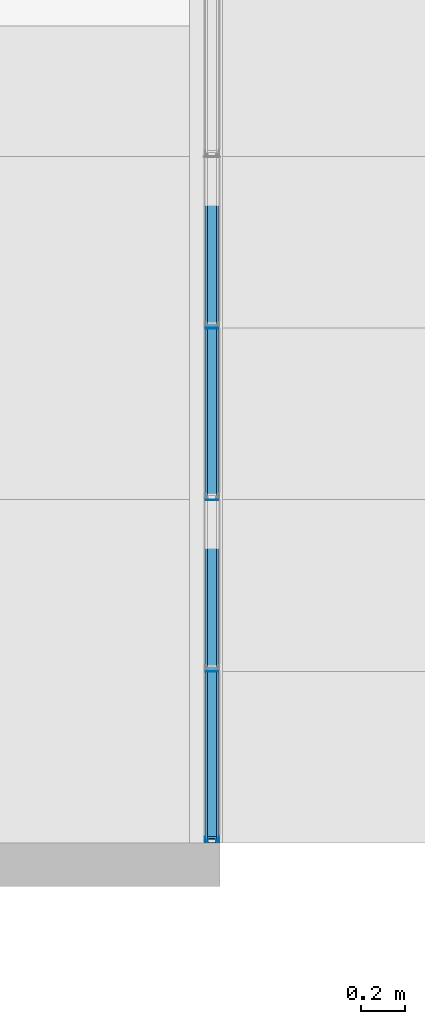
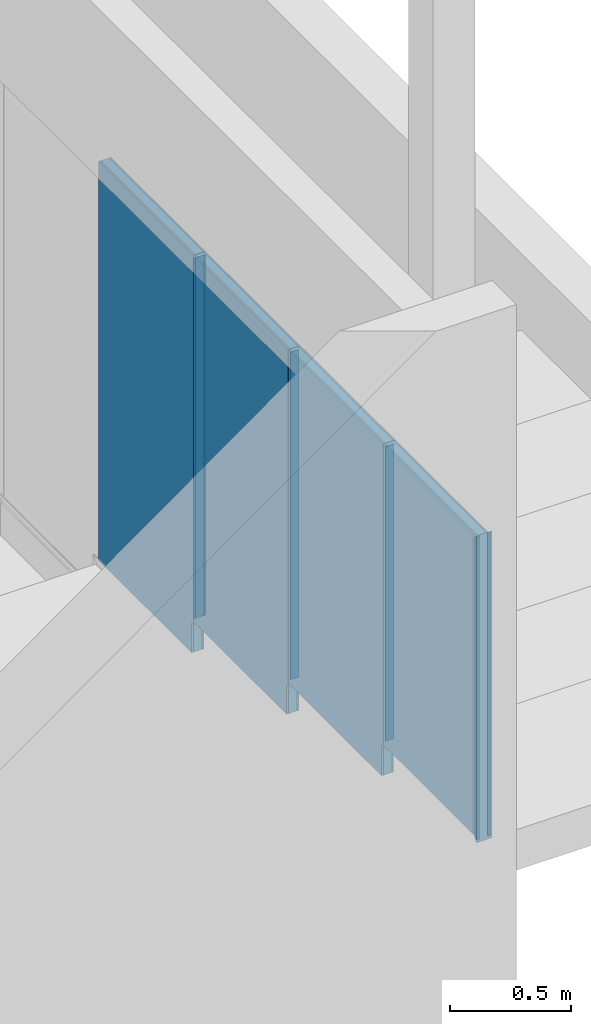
# One storey, part 29 of 65: 16 building element parts, 9 elements without a shape of their own.
"""IFC2X3 building model written with IfcOpenShell, lengths in millimetres."""

import ifcopenshell
import ifcopenshell.guid

model = None  # the IFC model being written
_history = None  # IfcOwnerHistory: only IFC2X3 demands one
_inside = {}  # id of a spatial element -> (the spatial element, [elements in it])
_under = {}  # id of a project, library or spatial element -> (it, [spatial elements below it])
_declared = {}  # id of a project -> (the project, [libraries it declares])
_typed = {}  # id of a type object -> (the type object, [elements of that type])
_made_of = {}  # id of a material, layer set ... -> (it, [elements and type objects made of it])


def new_model(schema):
    """Start an empty IFC model of exactly this schema.

    Asked for "IFC4X3", IfcOpenShell would pick the latest addendum, in which some entities
    have other attributes; the version numbers below select the first issue.
    IFC2X3 requires an IfcOwnerHistory on every rooted entity: one is made here for all.
    """
    global model, _history
    if schema == "IFC4X3":
        model = ifcopenshell.file(schema_version=(4, 3, 0, 0))
    else:
        model = ifcopenshell.file(schema=schema)
    _inside.clear()
    _under.clear()
    _declared.clear()
    _typed.clear()
    _made_of.clear()
    _history = None
    if model.schema == "IFC2X3":
        org = make("IfcOrganization", Name="unknown")
        user = make(
            "IfcPersonAndOrganization",
            ThePerson=make("IfcPerson", FamilyName="unknown"),
            TheOrganization=org,
        )
        app = make(
            "IfcApplication",
            ApplicationDeveloper=org,
            Version="unknown",
            ApplicationFullName="unknown",
            ApplicationIdentifier="unknown",
        )
        _history = make(
            "IfcOwnerHistory",
            OwningUser=user,
            OwningApplication=app,
            ChangeAction="ADDED",
            CreationDate=0,
        )
    return model


def make(cls, **values):
    """One entity of the class cls with the attributes given. An attribute that is None is left unset."""
    return model.create_entity(
        cls, **{name: value for name, value in values.items() if value is not None}
    )


def entity(cls, *values):
    """Any entity or typed value of the class cls, its attributes in the order of the schema. None: left unset."""
    e = model.create_entity(cls)
    for i, value in enumerate(values):
        if value is not None:
            e[i] = value
    return e


def rooted(cls, **values):
    """An entity with a GlobalId (a new one), such as an element, a storey or a relation."""
    return make(cls, GlobalId=ifcopenshell.guid.new(), OwnerHistory=_history, **values)


def si_unit(unit_type, name, prefix=None):
    """IfcSIUnit, for example si_unit("LENGTHUNIT", "METRE", prefix="MILLI")."""
    return make("IfcSIUnit", UnitType=unit_type, Prefix=prefix, Name=name)


def converted_unit(unit_type, name, factor, base, dimensions=None, offset=None):
    """IfcConversionBasedUnit, such as the inch: factor (a typed value) times the base unit."""
    return make(
        "IfcConversionBasedUnit"
        if offset is None
        else "IfcConversionBasedUnitWithOffset",
        ConversionOffset=offset,
        Dimensions=None
        if dimensions is None
        else entity("IfcDimensionalExponents", *dimensions),
        UnitType=unit_type,
        Name=name,
        ConversionFactor=make(
            "IfcMeasureWithUnit", ValueComponent=factor, UnitComponent=base
        ),
    )


def derived_unit(unit_type, elements):
    """IfcDerivedUnit: a product of units, each with its exponent."""
    return make(
        "IfcDerivedUnit",
        Elements=[
            make("IfcDerivedUnitElement", Unit=unit, Exponent=power)
            for unit, power in elements
        ],
        UnitType=unit_type,
    )


def money_unit(currency):
    """IfcMonetaryUnit."""
    return make("IfcMonetaryUnit", Currency=currency)


def assignment(units):
    """IfcUnitAssignment: the units of a project."""
    return None if units is None else make("IfcUnitAssignment", Units=units)


def point(xyz):
    """IfcCartesianPoint."""
    return None if xyz is None else make("IfcCartesianPoint", Coordinates=xyz)


def direction(xyz):
    """IfcDirection."""
    return None if xyz is None else make("IfcDirection", DirectionRatios=xyz)


def frame(location, z_axis=None, x_axis=None):
    """IfcAxis2Placement3D, a coordinate frame: its origin and axes. An axis left out is left unset."""
    return make(
        "IfcAxis2Placement3D",
        Location=point(location),
        Axis=direction(z_axis),
        RefDirection=direction(x_axis),
    )


def origin_with_axes():
    """The frame at (0, 0, 0) with the z axis (0, 0, 1) and the x axis (1, 0, 0) written out."""
    return frame((0.0, 0.0, 0.0), z_axis=(0.0, 0.0, 1.0), x_axis=(1.0, 0.0, 0.0))


def place(relative_to, where):
    """IfcLocalPlacement: puts the frame where relative to a parent placement (None: the world)."""
    return make(
        "IfcLocalPlacement", PlacementRelTo=relative_to, RelativePlacement=where
    )


def context(
    kind, dimensions, precision=None, world=None, true_north=None, identifier=None
):
    """IfcGeometricRepresentationContext, for example the 3D "Model" context."""
    return make(
        "IfcGeometricRepresentationContext",
        ContextIdentifier=identifier,
        ContextType=kind,
        CoordinateSpaceDimension=dimensions,
        Precision=precision,
        WorldCoordinateSystem=world,
        TrueNorth=true_north,
    )


def subcontext(parent, identifier, kind, view, scale=None):
    """IfcGeometricRepresentationSubContext, for example "Body" below "Model"."""
    return make(
        "IfcGeometricRepresentationSubContext",
        ContextIdentifier=identifier,
        ContextType=kind,
        ParentContext=parent,
        TargetScale=scale,
        TargetView=view,
    )


def project(units=None, contexts=None):
    """IfcProject with its units and contexts."""
    return rooted(
        "IfcProject",
        Name="project",
        RepresentationContexts=contexts,
        UnitsInContext=assignment(units),
    )


def spatial(cls, under=None, at=None, **own):
    """A site, building, storey or space (cls), placed at a placement, below another one or the project."""
    s = rooted(cls, ObjectPlacement=at, **own)
    if under is not None:
        _under.setdefault(under.id(), (under, []))[1].append(s)
    return s


def faces_of(points, faces, orient=None, outer=None):
    """IfcFace entities. A face is a list of loops; a loop is a list of indices into points, from 0.

    orient and outer hold one flag for each loop. By default every Orientation is true, the
    first loop of a face is its IfcFaceOuterBound and the others are IfcFaceBound.
    """
    made = []
    for i, loops in enumerate(faces):
        bounds = []
        for j, loop in enumerate(loops):
            is_outer = j == 0 if outer is None else outer[i][j]
            bounds.append(
                make(
                    "IfcFaceOuterBound" if is_outer else "IfcFaceBound",
                    Bound=make("IfcPolyLoop", Polygon=[points[k] for k in loop]),
                    Orientation=True if orient is None else orient[i][j],
                )
            )
        made.append(make("IfcFace", Bounds=bounds))
    return made


def faceted_brep(points, faces, orient=None, outer=None, voids=None):
    """IfcFacetedBrep: a solid bounded by flat faces; with voids (closed shells), ...WithVoids."""
    shared = [point(p) for p in points]
    hull = make("IfcClosedShell", CfsFaces=faces_of(shared, faces, orient, outer))
    if voids is None:
        return make("IfcFacetedBrep", Outer=hull)
    return make(
        "IfcFacetedBrepWithVoids",
        Outer=hull,
        Voids=[
            make(cls, CfsFaces=faces_of(shared, fs, o, b)) for cls, fs, o, b in voids
        ],
    )


def shape(context_of_items, identifier, shape_type, items):
    """IfcShapeRepresentation: the items that make up one representation, for example the "Body"."""
    return make(
        "IfcShapeRepresentation",
        ContextOfItems=context_of_items,
        RepresentationIdentifier=identifier,
        RepresentationType=shape_type,
        Items=items,
    )


def material(Name=None, Category=None):
    """IfcMaterial."""
    return make("IfcMaterial", Name=Name, Category=Category)


def made_of(thing, what):
    """Note that an element or type object is made of a material, layer set ...; save() writes the relation."""
    if what is not None:
        _made_of.setdefault(what.id(), (what, []))[1].append(thing)
    return thing


def type_object(cls, material=None, **own):
    """A type object (cls), such as IfcWallType, which elements share."""
    return made_of(rooted(cls, **own), material)


def element(
    cls,
    number,
    at=None,
    inside=None,
    cuts=None,
    type_object=None,
    material=None,
    context=None,
    identifier="Body",
    shape_type=None,
    held_by="IfcProductDefinitionShape",
    body=None,
    shapes=None,
    **own,
):
    """One element of the class cls, such as IfcWall. Its Tag is "e" and its number.

    at: its placement. inside: the storey or other place that contains it. cuts: it is an
    opening in that element (IfcRelVoidsElement). A single representation is given by context,
    identifier, shape_type and body (its items); several are given by shapes. held_by: the class
    of the entity that holds the representations. save() writes the other relations.
    """
    e = rooted(cls, Tag="e%d" % number, ObjectPlacement=at, **own)
    if body is not None:
        shapes = [shape(context, identifier, shape_type, body)]
    if shapes is not None:
        e.Representation = make(held_by, Representations=shapes)
    if inside is not None:
        _inside.setdefault(inside.id(), (inside, []))[1].append(e)
    if cuts is not None:
        rooted(
            "IfcRelVoidsElement", RelatingBuildingElement=cuts, RelatedOpeningElement=e
        )
    if type_object is not None:
        _typed.setdefault(type_object.id(), (type_object, []))[1].append(e)
    return made_of(e, material)


def aggregate(whole, parts):
    """IfcRelAggregates: a whole, such as a stair, and the parts it consists of."""
    return rooted("IfcRelAggregates", RelatingObject=whole, RelatedObjects=parts)


def save(model, path):
    """Write the relations noted so far, then the file.

    IfcRelAggregates (storeys below a building ...), IfcRelContainedInSpatialStructure (elements
    in a storey), IfcRelDefinesByType, IfcRelAssociatesMaterial and IfcRelDeclares: one each for
    every whole, place, type object, material and project.
    """
    for whole, parts in _under.values():
        aggregate(whole, parts)
    for where, things in _inside.values():
        rooted(
            "IfcRelContainedInSpatialStructure",
            RelatedElements=things,
            RelatingStructure=where,
        )
    for kind, things in _typed.values():
        rooted("IfcRelDefinesByType", RelatedObjects=things, RelatingType=kind)
    for what, things in _made_of.values():
        rooted("IfcRelAssociatesMaterial", RelatedObjects=things, RelatingMaterial=what)
    for by, libraries in _declared.values():
        rooted("IfcRelDeclares", RelatingContext=by, RelatedDefinitions=libraries)
    model.write(path)


model = new_model("IFC2X3")

# Units and contexts
model_context = context("Model", 3, precision=0.01, world=origin_with_axes(), true_north=direction((0.0, 1.0)))
body_context = subcontext(model_context, "Body", "Model", "MODEL_VIEW")
ifc_project = project(units=[si_unit("LENGTHUNIT", "METRE", prefix="MILLI"), si_unit("AREAUNIT", "SQUARE_METRE"), si_unit("VOLUMEUNIT", "CUBIC_METRE"), converted_unit("PLANEANGLEUNIT", "DEGREE", entity("IfcPlaneAngleMeasure", 0.0174532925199), si_unit("PLANEANGLEUNIT", "RADIAN"), dimensions=[0, 0, 0, 0, 0, 0, 0]), si_unit("SOLIDANGLEUNIT", "STERADIAN"), money_unit("EUR"), converted_unit("TIMEUNIT", "Year", entity("IfcTimeMeasure", 31556926.0), si_unit("TIMEUNIT", "SECOND"), dimensions=[0, 0, 1, 0, 0, 0, 0]), si_unit("MASSUNIT", "GRAM", prefix="KILO"), si_unit("THERMODYNAMICTEMPERATUREUNIT", "DEGREE_CELSIUS"), si_unit("LUMINOUSINTENSITYUNIT", "LUMEN"), si_unit("ENERGYUNIT", "JOULE", prefix="MEGA"), derived_unit("THERMALCONDUCTANCEUNIT", [(si_unit("POWERUNIT", "WATT"), 1), (si_unit("LENGTHUNIT", "METRE"), -1), (si_unit("THERMODYNAMICTEMPERATUREUNIT", "KELVIN"), -1)]), derived_unit("SPECIFICHEATCAPACITYUNIT", [(si_unit("ENERGYUNIT", "JOULE"), 1), (si_unit("MASSUNIT", "GRAM", prefix="KILO"), -1), (si_unit("THERMODYNAMICTEMPERATUREUNIT", "KELVIN"), -1)]), derived_unit("MASSDENSITYUNIT", [(si_unit("MASSUNIT", "GRAM", prefix="KILO"), 1), (si_unit("VOLUMEUNIT", "CUBIC_METRE"), -1)])], contexts=[model_context])

# Site, building, storey
site_placement = place(None, origin_with_axes())
site = spatial("IfcSite", under=ifc_project, at=site_placement, Name="Puškini 31, Narva", CompositionType="ELEMENT")
building_placement = place(site_placement, origin_with_axes())
building = spatial("IfcBuilding", under=site, at=building_placement, Name="Narva Riigigümnaasium", CompositionType="ELEMENT")
storey_placement = place(building_placement, frame((0.0, 0.0, -1320.0), z_axis=(0.0, 0.0, 1.0), x_axis=(1.0, 0.0, 0.0)))
storey = spatial("IfcBuildingStorey", under=building, at=storey_placement, Name="1.korrus -1.32", CompositionType="ELEMENT", Elevation=-1320.0)

# Curtain wall, plates, building element parts, members
curtain_wall_type = type_object("IfcCurtainWallType", Name="Curtain Wall Type", PredefinedType="NOTDEFINED")
curtain_wall_placement = place(storey_placement, frame((30362.9999948, 159591.499992, 330.0), z_axis=(0.0, 0.0, 1.0), x_axis=(1.0, 0.0, 0.0)))
curtain_wall = element("IfcCurtainWall", 1, at=curtain_wall_placement, inside=storey, type_object=curtain_wall_type, Name="G-SKLF-03")
plate_type_1 = type_object("IfcPlateType", Name="Siseklaasfassaad - Klaas 780 x 1695 x 10", PredefinedType="CURTAIN_PANEL")
plate_1_placement = place(curtain_wall_placement, frame((0.0, 1487.7, 1277.99997395), z_axis=(0.0, 0.0, 1.0), x_axis=(0.0, -1.0, 0.0)))
plate_1 = element("IfcPlate", 2, at=plate_1_placement, type_object=plate_type_1, Name="G-SKLF-03-klaas", ObjectType="CURTAIN_PANEL")
ifc_material_1 = material(Name="VKR-05_Klaas")
building_element_part_1_placement = place(plate_1_placement, origin_with_axes())
building_element_part_1 = element("IfcBuildingElementPart", 3, at=building_element_part_1_placement, material=ifc_material_1, Name="VKR-05_Klaas", context=body_context, shape_type="Brep", body=[
    faceted_brep([(-468.299997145, -29.0, 1076.99992752), (311.700001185, -29.0, 1076.99992752), (311.700001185, -20.0, 1076.99992752), (-468.299997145, -20.0, 1076.99992752), (-468.299997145, -29.0, -767.999955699), (298.199983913, -29.0, -767.999927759), (298.199983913, -29.0, -617.999962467), (311.700001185, -29.0, -617.999962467), (311.700001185, -20.0, -617.999962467), (298.199983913, -20.0, -617.999962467), (298.199983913, -20.0, -767.999927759), (-468.299997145, -20.0, -767.999955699)], [[[0, 1, 2, 3]], [[0, 4, 5, 6, 7, 1]], [[1, 7, 8, 2]], [[3, 2, 8, 9, 10, 11]], [[4, 0, 3, 11]], [[5, 4, 11, 10]], [[6, 5, 10, 9]], [[7, 6, 9, 8]]]),
    faceted_brep([(-468.299997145, 20.0, 1076.99992752), (311.700001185, 20.0, 1076.99992752), (311.700001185, 29.0, 1076.99992752), (-468.299997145, 29.0, 1076.99992752), (-468.299997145, 20.0, -767.999955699), (298.199983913, 20.0, -767.999927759), (298.199983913, 20.0, -617.999962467), (311.700001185, 20.0, -617.999962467), (311.700001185, 29.0, -617.999962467), (298.199983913, 29.0, -617.999962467), (298.199983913, 29.0, -767.999927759), (-468.299997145, 29.0, -767.999955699)], [[[0, 1, 2, 3]], [[0, 4, 5, 6, 7, 1]], [[1, 7, 8, 2]], [[3, 2, 8, 9, 10, 11]], [[4, 0, 3, 11]], [[5, 4, 11, 10]], [[6, 5, 10, 9]], [[7, 6, 9, 8]]]),
])
ifc_material_2 = material(Name="VKR-06_Õhkvahe")
building_element_part_2_placement = place(plate_1_placement, origin_with_axes())
building_element_part_2 = element("IfcBuildingElementPart", 4, at=building_element_part_2_placement, material=ifc_material_2, Name="VKR-06_Õhkvahe", context=body_context, shape_type="Brep", body=[
    faceted_brep([(-468.299997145, -20.0, 1076.99992752), (311.700001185, -20.0, 1076.99992752), (311.700001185, 20.0, 1076.99992752), (-468.299997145, 20.0, 1076.99992752), (-468.299997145, -20.0, -767.999955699), (298.199983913, -20.0, -767.999927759), (298.199983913, -20.0, -617.999962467), (311.700001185, -20.0, -617.999962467), (311.700001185, 20.0, -617.999962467), (298.199983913, 20.0, -617.999962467), (298.199983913, 20.0, -767.999927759), (-468.299997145, 20.0, -767.999955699)], [[[0, 1, 2, 3]], [[0, 4, 5, 6, 7, 1]], [[1, 7, 8, 2]], [[3, 2, 8, 9, 10, 11]], [[4, 0, 3, 11]], [[5, 4, 11, 10]], [[6, 5, 10, 9]], [[7, 6, 9, 8]]]),
])
aggregate(plate_1, [building_element_part_1, building_element_part_2])
plate_type_2 = type_object("IfcPlateType", Name="Siseklaasfassaad - Klaas 780 x 1860 x 10", PredefinedType="CURTAIN_PANEL")
plate_2_placement = place(curtain_wall_placement, frame((0.0, 2311.70000705, 1037.49996607), z_axis=(0.0, 0.0, 1.0), x_axis=(0.0, -1.0, 0.0)))
plate_2 = element("IfcPlate", 5, at=plate_2_placement, type_object=plate_type_2, Name="G-SKLF-03-klaas", ObjectType="CURTAIN_PANEL")
building_element_part_3_placement = place(plate_2_placement, origin_with_axes())
building_element_part_3 = element("IfcBuildingElementPart", 6, at=building_element_part_3_placement, material=ifc_material_1, Name="VKR-05_Klaas", context=body_context, shape_type="Brep", body=[
    faceted_brep([(-427.300003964, -29.0, 1317.49994648), (352.699998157, -29.0, 1317.49994648), (352.699998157, -20.0, 1317.49994648), (-427.300003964, -20.0, 1317.49994648), (-427.300003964, -29.0, -692.499988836), (339.200009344, -29.0, -692.499958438), (339.200009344, -29.0, -542.499951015), (352.699998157, -29.0, -542.499951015), (352.699998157, -20.0, -542.499951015), (339.200009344, -20.0, -542.499951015), (339.200009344, -20.0, -692.499958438), (-427.300003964, -20.0, -692.499988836)], [[[0, 1, 2, 3]], [[0, 4, 5, 6, 7, 1]], [[1, 7, 8, 2]], [[3, 2, 8, 9, 10, 11]], [[4, 0, 3, 11]], [[5, 4, 11, 10]], [[6, 5, 10, 9]], [[7, 6, 9, 8]]]),
    faceted_brep([(-427.300003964, 20.0, 1317.49994648), (352.699998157, 20.0, 1317.49994648), (352.699998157, 29.0, 1317.49994648), (-427.300003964, 29.0, 1317.49994648), (-427.300003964, 20.0, -692.499988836), (339.200009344, 20.0, -692.499958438), (339.200009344, 20.0, -542.499951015), (352.699998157, 20.0, -542.499951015), (352.699998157, 29.0, -542.499951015), (339.200009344, 29.0, -542.499951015), (339.200009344, 29.0, -692.499958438), (-427.300003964, 29.0, -692.499988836)], [[[0, 1, 2, 3]], [[0, 4, 5, 6, 7, 1]], [[1, 7, 8, 2]], [[3, 2, 8, 9, 10, 11]], [[4, 0, 3, 11]], [[5, 4, 11, 10]], [[6, 5, 10, 9]], [[7, 6, 9, 8]]]),
])
building_element_part_4_placement = place(plate_2_placement, origin_with_axes())
building_element_part_4 = element("IfcBuildingElementPart", 7, at=building_element_part_4_placement, material=ifc_material_2, Name="VKR-06_Õhkvahe", context=body_context, shape_type="Brep", body=[
    faceted_brep([(-427.300003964, -20.0, 1317.49994648), (352.699998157, -20.0, 1317.49994648), (352.699998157, 20.0, 1317.49994648), (-427.300003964, 20.0, 1317.49994648), (-427.300003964, -20.0, -692.499988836), (339.200009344, -20.0, -692.499958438), (339.200009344, -20.0, -542.499951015), (352.699998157, -20.0, -542.499951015), (352.699998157, 20.0, -542.499951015), (339.200009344, 20.0, -542.499951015), (339.200009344, 20.0, -692.499958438), (-427.300003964, 20.0, -692.499988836)], [[[0, 1, 2, 3]], [[0, 4, 5, 6, 7, 1]], [[1, 7, 8, 2]], [[3, 2, 8, 9, 10, 11]], [[4, 0, 3, 11]], [[5, 4, 11, 10]], [[6, 5, 10, 9]], [[7, 6, 9, 8]]]),
])
aggregate(plate_2, [building_element_part_3, building_element_part_4])
plate_type_3 = type_object("IfcPlateType", Name="Siseklaasfassaad - Klaas 780 x 1530 x 10", PredefinedType="CURTAIN_PANEL")
plate_3_placement = place(curtain_wall_placement, frame((0.0, 745.600003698, 1257.50000363), z_axis=(0.0, 0.0, 1.0), x_axis=(0.0, -1.0, 0.0)))
plate_3 = element("IfcPlate", 8, at=plate_3_placement, type_object=plate_type_3, Name="G-SKLF-03-klaas", ObjectType="CURTAIN_PANEL")
building_element_part_5_placement = place(plate_3_placement, origin_with_axes())
building_element_part_5 = element("IfcBuildingElementPart", 9, at=building_element_part_5_placement, material=ifc_material_1, Name="VKR-05_Klaas", context=body_context, shape_type="Brep", body=[
    faceted_brep([(-427.400007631, -29.0, 1097.49990666), (352.600013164, -29.0, 1097.49990666), (352.600013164, -20.0, 1097.49990666), (-427.400007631, -20.0, 1097.49990666), (-427.400007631, -29.0, -582.499989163), (339.099996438, -29.0, -582.49991272), (339.099996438, -29.0, -432.500018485), (352.600013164, -29.0, -432.500018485), (352.600013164, -20.0, -432.500018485), (339.099996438, -20.0, -432.500018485), (339.099996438, -20.0, -582.49991272), (-427.400007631, -20.0, -582.499989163)], [[[0, 1, 2, 3]], [[0, 4, 5, 6, 7, 1]], [[1, 7, 8, 2]], [[3, 2, 8, 9, 10, 11]], [[4, 0, 3, 11]], [[5, 4, 11, 10]], [[6, 5, 10, 9]], [[7, 6, 9, 8]]]),
    faceted_brep([(-427.400007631, 20.0, 1097.49990666), (352.600013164, 20.0, 1097.49990666), (352.600013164, 29.0, 1097.49990666), (-427.400007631, 29.0, 1097.49990666), (-427.400007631, 20.0, -582.499989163), (339.099996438, 20.0, -582.49991272), (339.099996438, 20.0, -432.500018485), (352.600013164, 20.0, -432.500018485), (352.600013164, 29.0, -432.500018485), (339.099996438, 29.0, -432.500018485), (339.099996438, 29.0, -582.49991272), (-427.400007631, 29.0, -582.499989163)], [[[0, 1, 2, 3]], [[0, 4, 5, 6, 7, 1]], [[1, 7, 8, 2]], [[3, 2, 8, 9, 10, 11]], [[4, 0, 3, 11]], [[5, 4, 11, 10]], [[6, 5, 10, 9]], [[7, 6, 9, 8]]]),
])
building_element_part_6_placement = place(plate_3_placement, origin_with_axes())
building_element_part_6 = element("IfcBuildingElementPart", 10, at=building_element_part_6_placement, material=ifc_material_2, Name="VKR-06_Õhkvahe", context=body_context, shape_type="Brep", body=[
    faceted_brep([(-427.400007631, -20.0, 1097.49990666), (352.600013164, -20.0, 1097.49990666), (352.600013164, 20.0, 1097.49990666), (-427.400007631, 20.0, 1097.49990666), (-427.400007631, -20.0, -582.499989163), (339.099996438, -20.0, -582.49991272), (339.099996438, -20.0, -432.500018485), (352.600013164, -20.0, -432.500018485), (352.600013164, 20.0, -432.500018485), (339.099996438, 20.0, -432.500018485), (339.099996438, 20.0, -582.49991272), (-427.400007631, 20.0, -582.499989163)], [[[0, 1, 2, 3]], [[0, 4, 5, 6, 7, 1]], [[1, 7, 8, 2]], [[3, 2, 8, 9, 10, 11]], [[4, 0, 3, 11]], [[5, 4, 11, 10]], [[6, 5, 10, 9]], [[7, 6, 9, 8]]]),
])
aggregate(plate_3, [building_element_part_5, building_element_part_6])
plate_type_4 = type_object("IfcPlateType", Name="Siseklaasfassaad - Klaas 766 x 1515 x 10", PredefinedType="CURTAIN_PANEL")
plate_4_placement = place(curtain_wall_placement, frame((0.0, 0.0, 1597.49996144), z_axis=(0.0, 0.0, 1.0), x_axis=(0.0, -1.0, 0.0)))
plate_4 = element("IfcPlate", 11, at=plate_4_placement, type_object=plate_type_4, Name="G-SKLF-03-klaas", ObjectType="CURTAIN_PANEL")
building_element_part_7_placement = place(plate_4_placement, origin_with_axes())
building_element_part_7 = element("IfcBuildingElementPart", 12, at=building_element_part_7_placement, material=ifc_material_1, Name="VKR-05_Klaas", context=body_context, shape_type="Brep", body=[
    faceted_brep([(-390.000003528, -29.0, 757.499938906), (376.499994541, -29.0, 757.49998495), (376.499994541, -20.0, 757.49998495), (-390.000003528, -20.0, 757.499938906), (-390.000003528, -29.0, -757.499967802), (376.499994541, -29.0, -757.499967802), (376.499994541, -20.0, -757.499967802), (-390.000003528, -20.0, -757.499967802)], [[[0, 1, 2, 3]], [[0, 4, 5, 1]], [[1, 5, 6, 2]], [[3, 2, 6, 7]], [[4, 0, 3, 7]], [[5, 4, 7, 6]]]),
    faceted_brep([(-390.000003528, 20.0, 757.499938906), (376.499994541, 20.0, 757.49998495), (376.499994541, 29.0, 757.49998495), (-390.000003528, 29.0, 757.499938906), (-390.000003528, 20.0, -757.499967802), (376.499994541, 20.0, -757.499967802), (376.499994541, 29.0, -757.499967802), (-390.000003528, 29.0, -757.499967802)], [[[0, 1, 2, 3]], [[0, 4, 5, 1]], [[1, 5, 6, 2]], [[3, 2, 6, 7]], [[4, 0, 3, 7]], [[5, 4, 7, 6]]]),
])
building_element_part_8_placement = place(plate_4_placement, origin_with_axes())
building_element_part_8 = element("IfcBuildingElementPart", 13, at=building_element_part_8_placement, material=ifc_material_2, Name="VKR-06_Õhkvahe", context=body_context, shape_type="Brep", body=[
    faceted_brep([(-390.000003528, -20.0, 757.499938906), (376.499994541, -20.0, 757.49998495), (376.499994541, 20.0, 757.49998495), (-390.000003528, 20.0, 757.499938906), (-390.000003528, -20.0, -757.499967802), (376.499994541, -20.0, -757.499967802), (376.499994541, 20.0, -757.499967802), (-390.000003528, 20.0, -757.499967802)], [[[0, 1, 2, 3]], [[0, 4, 5, 1]], [[1, 5, 6, 2]], [[3, 2, 6, 7]], [[4, 0, 3, 7]], [[5, 4, 7, 6]]]),
])
aggregate(plate_4, [building_element_part_7, building_element_part_8])
member_type_1 = type_object("IfcMemberType", Name="Siseklaasfassaad - Raam n2htamatu 3 x 29", PredefinedType="MULLION")
member_1_placement = place(curtain_wall_placement, frame((0.0, 391.5, 824.999988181), z_axis=(0.0, 0.0, 1.0), x_axis=(0.0, -1.0, 0.0)))
member_1 = element("IfcMember", 14, at=member_1_placement, type_object=member_type_1, Name="G-SKLF-03-klaasidevaheline tihend", ObjectType="MULLION")
ifc_material_3 = material(Name="Klaas")
building_element_part_9_placement = place(member_1_placement, origin_with_axes())
building_element_part_9 = element("IfcBuildingElementPart", 15, at=building_element_part_9_placement, material=ifc_material_3, Name="Klaas", context=body_context, shape_type="Brep", body=[
    faceted_brep([(1.5000138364, 20.0064497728, 30.0000193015), (1.5000138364, 20.0064497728, 1514.99991095), (-1.4999861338, 20.0064497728, 1514.99991095), (-1.4999861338, 20.0064497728, 30.0000193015), (1.5000138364, 29.0064496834, 30.0000193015), (1.5000138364, 29.0064496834, 1514.99991134), (-1.4999861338, 29.0064496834, 1514.99991134), (-1.4999861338, 29.0064496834, 30.0000193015)], [[[0, 1, 2, 3]], [[4, 5, 1, 0]], [[2, 1, 5, 6]], [[3, 2, 6, 7]], [[3, 7, 4, 0]], [[7, 6, 5, 4]]]),
    faceted_brep([(-1.4999861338, -28.9935503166, 30.0000193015), (-1.4999861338, -28.9935503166, 1514.9999088), (-1.4999861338, -19.993550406, 1514.9999092), (-1.4999861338, -19.993550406, 30.0000193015), (1.5000138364, -28.9935503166, 30.0000193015), (1.5000138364, -28.9935503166, 1514.9999088), (1.5000138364, -19.993550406, 1514.9999092), (1.5000138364, -19.993550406, 30.0000193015)], [[[0, 1, 2, 3]], [[4, 5, 1, 0]], [[2, 1, 5, 6]], [[3, 2, 6, 7]], [[3, 7, 4, 0]], [[7, 6, 5, 4]]]),
])
building_element_part_10_placement = place(member_1_placement, origin_with_axes())
building_element_part_10 = element("IfcBuildingElementPart", 16, at=building_element_part_10_placement, material=ifc_material_2, Name="VKR-06_Õhkvahe", context=body_context, shape_type="Brep", body=[
    faceted_brep([(-1.4999861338, -19.9935503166, 30.0000193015), (-1.4999861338, -19.9935503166, 1514.9999092), (-1.4999861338, 20.0064496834, 1514.99991095), (-1.4999861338, 20.0064496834, 30.0000193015), (1.5000138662, -19.9935503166, 30.0000193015), (1.5000138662, -19.9935503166, 1514.9999092), (1.5000138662, 20.0064496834, 1514.99991095), (1.5000138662, 20.0064496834, 30.0000193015)], [[[0, 1, 2, 3]], [[4, 5, 1, 0]], [[2, 1, 5, 6]], [[3, 2, 6, 7]], [[3, 7, 4, 0]], [[7, 6, 5, 4]]]),
])
aggregate(member_1, [building_element_part_9, building_element_part_10])
member_type_2 = type_object("IfcMemberType", Name="30 x 37", PredefinedType="MULLION")
member_2_placement = place(curtain_wall_placement, frame((0.0, -391.5, 824.999988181), z_axis=(0.0, 0.0, 1.0), x_axis=(0.0, -1.0, 0.0)))
member_2 = element("IfcMember", 17, at=member_2_placement, type_object=member_type_2, Name="G-SKLF-31-raam", ObjectType="MULLION")
ifc_material_4 = material(Name="Klaasvill")
building_element_part_11_placement = place(member_2_placement, origin_with_axes())
building_element_part_11 = element("IfcBuildingElementPart", 18, at=building_element_part_11_placement, material=ifc_material_4, Name="Klaasvill", context=body_context, shape_type="Brep", body=[
    faceted_brep([(-13.8499999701, 20.000000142, 13.8499999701), (-7.49999990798, 20.000000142, 7.49999990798), (-7.49999990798, 20.000000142, 1537.49996343), (-13.8499999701, 20.000000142, 1531.14996309), (-13.8499999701, 34.0161444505, 13.8499999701), (-7.49999990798, 34.0161444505, 7.49999990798), (-7.49999990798, 34.0161444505, 1537.49996343), (-13.8499999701, 34.0161444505, 1531.14996309)], [[[0, 1, 2, 3]], [[1, 0, 4, 5]], [[1, 5, 6, 2]], [[2, 6, 7, 3]], [[4, 0, 3, 7]], [[5, 4, 7, 6]]]),
    faceted_brep([(-25.004489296, 32.0307503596, 25.004489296), (-24.987414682, 34.0161444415, 24.987414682), (-24.987414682, 34.0161444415, 1520.01254789), (-25.004489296, 32.0307503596, 1519.99547328), (-25.742237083, 31.2930025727, 25.742237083), (-26.7500193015, 31.0229681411, 26.7500193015), (-27.75780152, 31.2930025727, 27.75780152), (-28.4955493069, 32.0307503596, 28.4955493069), (-28.7655837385, 33.0385325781, 28.7655837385), (-28.5126239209, 34.0161444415, 28.5126239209), (-28.5126239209, 34.0161444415, 1516.4873385), (-28.7655837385, 33.0385325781, 1516.23437867), (-28.4955493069, 32.0307503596, 1516.50441311), (-27.75780152, 31.2930025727, 1517.24216093), (-26.7500193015, 31.0229681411, 1518.2499432), (-25.742237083, 31.2930025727, 1519.25772546)], [[[0, 1, 2, 3]], [[1, 0, 4, 5, 6, 7, 8, 9]], [[1, 9, 10, 2]], [[2, 10, 11, 12, 13, 14, 15, 3]], [[4, 0, 3, 15]], [[5, 4, 15, 14]], [[6, 5, 14, 13]], [[7, 6, 13, 12]], [[8, 7, 12, 11]], [[9, 8, 11, 10]]]),
    faceted_brep([(-7.49999990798, -34.0161445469, 7.49999990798), (-7.49999990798, -19.9999997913, 7.49999990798), (-7.49999990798, -19.9999997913, 1537.49996343), (-7.49999990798, -34.0161445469, 1537.49996343), (-13.8499999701, -34.0161445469, 13.8499999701), (-13.8499999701, -19.9999997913, 13.8499999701), (-13.8499999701, -19.9999997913, 1531.14996309), (-13.8499999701, -34.0161445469, 1531.14996309)], [[[0, 1, 2, 3]], [[1, 0, 4, 5]], [[1, 5, 6, 2]], [[2, 6, 7, 3]], [[4, 0, 3, 7]], [[5, 4, 7, 6]]]),
    faceted_brep([(-24.987414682, -34.0161444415, 24.987414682), (-25.004489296, -32.0307503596, 25.004489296), (-25.004489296, -32.0307503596, 1519.99547328), (-24.987414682, -34.0161444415, 1520.01254789), (-28.5126239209, -34.0161444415, 28.5126239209), (-28.7655837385, -33.0385325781, 28.7655837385), (-28.4955493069, -32.0307503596, 28.4955493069), (-27.75780152, -31.2930025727, 27.75780152), (-26.7500193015, -31.0229681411, 26.7500193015), (-25.742237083, -31.2930025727, 25.742237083), (-25.742237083, -31.2930025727, 1519.25772546), (-26.7500193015, -31.0229681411, 1518.2499432), (-27.75780152, -31.2930025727, 1517.24216093), (-28.4955493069, -32.0307503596, 1516.50441311), (-28.7655837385, -33.0385325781, 1516.23437867), (-28.5126239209, -34.0161444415, 1516.4873385)], [[[0, 1, 2, 3]], [[1, 0, 4, 5, 6, 7, 8, 9]], [[1, 9, 10, 2]], [[2, 10, 11, 12, 13, 14, 15, 3]], [[4, 0, 3, 15]], [[5, 4, 15, 14]], [[6, 5, 14, 13]], [[7, 6, 13, 12]], [[8, 7, 12, 11]], [[9, 8, 11, 10]]]),
])
ifc_material_5 = material(Name="Teras RAL7012")
building_element_part_12_placement = place(member_2_placement, origin_with_axes())
building_element_part_12 = element("IfcBuildingElementPart", 19, at=building_element_part_12_placement, material=ifc_material_5, Name="Teras RAL7012", context=body_context, shape_type="Brep", body=[
    faceted_brep([(-29.5999996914, -17.0000000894, 29.5999996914), (0.0, -17.0000000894, 0.0), (0.0, -17.0000000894, 1544.99996367), (-29.5999996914, -17.0000000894, 1515.39996268), (-29.5999996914, 17.0000000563, 29.5999996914), (0.0, 17.0000000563, 0.0), (-1.9999999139, 15.0000001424, 1.9999999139), (-18.7999996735, 15.0000001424, 18.7999996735), (-18.7999996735, -15.0000001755, 18.7999996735), (-1.9999999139, -15.0000001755, 1.9999999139), (0.0, 17.0000000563, 1544.99996367), (-29.5999996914, 17.0000000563, 1515.39996268), (-1.9999999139, 15.0000001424, 1542.99996367), (-1.9999999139, -15.0000001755, 1542.99996367), (-18.7999996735, -15.0000001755, 1526.19996317), (-18.7999996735, 15.0000001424, 1526.19996317)], [[[0, 1, 2, 3]], [[1, 0, 4, 5], [6, 7, 8, 9]], [[1, 5, 10, 2]], [[2, 10, 11, 3], [12, 13, 14, 15]], [[4, 0, 3, 11]], [[5, 4, 11, 10]], [[7, 6, 12, 15]], [[8, 7, 15, 14]], [[9, 8, 14, 13]], [[6, 9, 13, 12]]]),
    faceted_brep([(-29.5999996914, 17.0000000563, 29.5999996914), (0.0, 17.0, 0.0), (0.0, 17.0, 1544.99996367), (-29.5999996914, 17.0000000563, 1515.39996268), (-30.0000193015, 17.0, 30.0000193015), (-30.0000193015, 20.0, 30.0000193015), (-13.8499999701, 20.000000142, 13.8499999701), (-7.49999999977, 20.0, 7.49999999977), (-7.49999999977, 34.0161444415, 7.49999999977), (-13.8499999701, 34.0161444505, 13.8499999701), (-24.987414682, 34.0161444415, 24.987414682), (-28.5126239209, 34.0161444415, 28.5126239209), (-30.0000193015, 34.0161444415, 30.0000193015), (-30.0000193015, 37.0, 30.0000193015), (0.0, 37.0, 0.0), (0.0, 37.0, 1544.99996367), (-30.0000193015, 37.0, 1514.99994305), (-30.0000193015, 34.0161444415, 1514.99994305), (-28.5126239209, 34.0161444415, 1516.4873385), (-24.987414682, 34.0161444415, 1520.01254789), (-13.8499999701, 34.0161444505, 1531.14996309), (-7.49999999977, 34.0161444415, 1537.49996334), (-7.49999999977, 20.0, 1537.49996334), (-13.8499999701, 20.000000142, 1531.14996309), (-30.0000193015, 20.0, 1514.99994305), (-30.0000193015, 17.0, 1514.99994305)], [[[0, 1, 2, 3]], [[1, 0, 4, 5, 6, 7, 8, 9, 10, 11, 12, 13, 14]], [[1, 14, 15, 2]], [[2, 15, 16, 17, 18, 19, 20, 21, 22, 23, 24, 25, 3]], [[4, 0, 3, 25]], [[5, 4, 25, 24]], [[6, 5, 24, 23]], [[7, 6, 23, 22]], [[8, 7, 22, 21]], [[9, 8, 21, 20]], [[10, 9, 20, 19]], [[11, 10, 19, 18]], [[12, 11, 18, 17]], [[13, 12, 17, 16]], [[14, 13, 16, 15]]]),
    faceted_brep([(0.0, -37.0, 0.0), (0.0, -17.0, 0.0), (0.0, -17.0, 1544.99996367), (0.0, -37.0, 1544.99996367), (-30.0000193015, -37.0, 30.0000193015), (-30.0000193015, -34.0161444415, 30.0000193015), (-28.5126239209, -34.0161444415, 28.5126239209), (-24.987414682, -34.0161444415, 24.987414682), (-13.8499999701, -34.0161445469, 13.8499999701), (-7.49999999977, -34.0161444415, 7.49999999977), (-7.49999999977, -20.0, 7.49999999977), (-13.8499999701, -19.9999997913, 13.8499999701), (-30.0000193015, -20.0, 30.0000193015), (-30.0000193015, -17.0, 30.0000193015), (-29.5999996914, -17.0000000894, 29.5999996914), (-29.5999996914, -17.0000000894, 1515.39996268), (-30.0000193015, -17.0, 1514.99994305), (-30.0000193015, -20.0, 1514.99994305), (-13.8499999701, -19.9999997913, 1531.14996309), (-7.49999999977, -20.0, 1537.49996334), (-7.49999999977, -34.0161444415, 1537.49996334), (-13.8499999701, -34.0161445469, 1531.14996309), (-24.987414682, -34.0161444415, 1520.01254789), (-28.5126239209, -34.0161444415, 1516.4873385), (-30.0000193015, -34.0161444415, 1514.99994305), (-30.0000193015, -37.0, 1514.99994305)], [[[0, 1, 2, 3]], [[1, 0, 4, 5, 6, 7, 8, 9, 10, 11, 12, 13, 14]], [[1, 14, 15, 2]], [[2, 15, 16, 17, 18, 19, 20, 21, 22, 23, 24, 25, 3]], [[4, 0, 3, 25]], [[5, 4, 25, 24]], [[6, 5, 24, 23]], [[7, 6, 23, 22]], [[8, 7, 22, 21]], [[9, 8, 21, 20]], [[10, 9, 20, 19]], [[11, 10, 19, 18]], [[12, 11, 18, 17]], [[13, 12, 17, 16]], [[14, 13, 16, 15]]]),
])
aggregate(member_2, [building_element_part_11, building_element_part_12])
member_3_placement = place(curtain_wall_placement, frame((0.0, 1174.5, 660.000007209), z_axis=(0.0, 0.0, 1.0), x_axis=(0.0, -1.0, 0.0)))
member_3 = element("IfcMember", 20, at=member_3_placement, type_object=member_type_1, Name="G-SKLF-03-klaasidevaheline tihend", ObjectType="MULLION")
building_element_part_13_placement = place(member_3_placement, origin_with_axes())
building_element_part_13 = element("IfcBuildingElementPart", 21, at=building_element_part_13_placement, material=ifc_material_3, Name="Klaas", context=body_context, shape_type="Brep", body=[
    faceted_brep([(1.5000138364, 20.0064497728, 30.0000090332), (1.5000138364, 20.0064497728, 1679.99989104), (-1.4999861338, 20.0064497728, 1679.99989104), (-1.4999861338, 20.0064497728, 30.0000090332), (1.5000138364, 29.0064496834, 30.000004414), (1.5000138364, 29.0064496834, 1679.99989104), (-1.4999861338, 29.0064496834, 1679.99989104), (-1.4999861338, 29.0064496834, 30.000004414)], [[[0, 1, 2, 3]], [[4, 5, 1, 0]], [[2, 1, 5, 6]], [[3, 2, 6, 7]], [[3, 7, 4, 0]], [[7, 6, 5, 4]]]),
    faceted_brep([(-1.4999861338, -28.9935503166, 30.0000341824), (-1.4999861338, -28.9935503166, 1679.99989104), (-1.4999861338, -19.993550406, 1679.99989104), (-1.4999861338, -19.993550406, 30.0000295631), (1.5000138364, -28.9935503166, 30.0000341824), (1.5000138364, -28.9935503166, 1679.99989104), (1.5000138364, -19.993550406, 1679.99989104), (1.5000138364, -19.993550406, 30.0000295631)], [[[0, 1, 2, 3]], [[4, 5, 1, 0]], [[2, 1, 5, 6]], [[3, 2, 6, 7]], [[3, 7, 4, 0]], [[7, 6, 5, 4]]]),
])
building_element_part_14_placement = place(member_3_placement, origin_with_axes())
building_element_part_14 = element("IfcBuildingElementPart", 22, at=building_element_part_14_placement, material=ifc_material_2, Name="VKR-06_Õhkvahe", context=body_context, shape_type="Brep", body=[
    faceted_brep([(-1.4999861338, -19.9935503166, 30.0000295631), (-1.4999861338, -19.9935503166, 1679.99989104), (-1.4999861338, 20.0064496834, 1679.99989104), (-1.4999861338, 20.0064496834, 30.0000090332), (1.5000138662, -19.9935503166, 30.0000295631), (1.5000138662, -19.9935503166, 1679.99989104), (1.5000138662, 20.0064496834, 1679.99989104), (1.5000138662, 20.0064496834, 30.0000090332)], [[[0, 1, 2, 3]], [[4, 5, 1, 0]], [[2, 1, 5, 6]], [[3, 2, 6, 7]], [[3, 7, 4, 0]], [[7, 6, 5, 4]]]),
])
aggregate(member_3, [building_element_part_13, building_element_part_14])
member_4_placement = place(curtain_wall_placement, frame((0.0, 1957.5, 495.000002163), z_axis=(0.0, 0.0, 1.0), x_axis=(0.0, -1.0, 0.0)))
member_4 = element("IfcMember", 23, at=member_4_placement, type_object=member_type_1, Name="G-SKLF-77-klaasidevaheline tihend", ObjectType="MULLION")
aggregate(curtain_wall, [member_1, member_2, member_3, member_4, plate_1, plate_2, plate_3, plate_4])
building_element_part_15_placement = place(member_4_placement, origin_with_axes())
building_element_part_15 = element("IfcBuildingElementPart", 24, at=building_element_part_15_placement, material=ifc_material_3, Name="Klaas", context=body_context, shape_type="Brep", body=[
    faceted_brep([(1.5000138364, 20.0064497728, 30.0000185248), (1.5000138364, 20.0064497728, 1844.99988898), (-1.4999861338, 20.0064497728, 1844.99988898), (-1.4999861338, 20.0064497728, 30.0000185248), (1.5000138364, 29.0064496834, 30.0000181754), (1.5000138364, 29.0064496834, 1844.99988906), (-1.4999861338, 29.0064496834, 1844.99988906), (-1.4999861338, 29.0064496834, 30.0000181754)], [[[0, 1, 2, 3]], [[4, 5, 1, 0]], [[2, 1, 5, 6]], [[3, 2, 6, 7]], [[3, 7, 4, 0]], [[7, 6, 5, 4]]]),
    faceted_brep([(-1.4999861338, -28.9935503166, 30.0000204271), (-1.4999861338, -28.9935503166, 1844.99988852), (-1.4999861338, -19.993550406, 1844.9998886), (-1.4999861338, -19.993550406, 30.0000200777), (1.5000138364, -28.9935503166, 30.0000204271), (1.5000138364, -28.9935503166, 1844.99988852), (1.5000138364, -19.993550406, 1844.9998886), (1.5000138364, -19.993550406, 30.0000200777)], [[[0, 1, 2, 3]], [[4, 5, 1, 0]], [[2, 1, 5, 6]], [[3, 2, 6, 7]], [[3, 7, 4, 0]], [[7, 6, 5, 4]]]),
])
building_element_part_16_placement = place(member_4_placement, origin_with_axes())
building_element_part_16 = element("IfcBuildingElementPart", 25, at=building_element_part_16_placement, material=ifc_material_2, Name="VKR-06_Õhkvahe", context=body_context, shape_type="Brep", body=[
    faceted_brep([(-1.4999861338, -19.9935503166, 30.0000200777), (-1.4999861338, -19.9935503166, 1844.9998886), (-1.4999861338, 20.0064496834, 1844.99988898), (-1.4999861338, 20.0064496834, 30.0000185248), (1.5000138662, -19.9935503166, 30.0000200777), (1.5000138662, -19.9935503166, 1844.9998886), (1.5000138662, 20.0064496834, 1844.99988898), (1.5000138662, 20.0064496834, 30.0000185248)], [[[0, 1, 2, 3]], [[4, 5, 1, 0]], [[2, 1, 5, 6]], [[3, 2, 6, 7]], [[3, 7, 4, 0]], [[7, 6, 5, 4]]]),
])
aggregate(member_4, [building_element_part_15, building_element_part_16])

save(model, "model.ifc")
